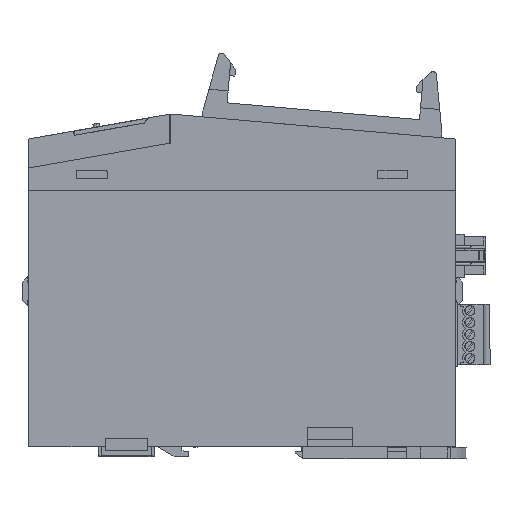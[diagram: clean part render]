
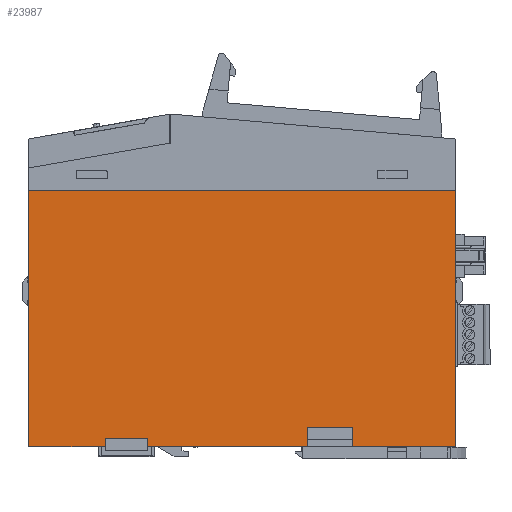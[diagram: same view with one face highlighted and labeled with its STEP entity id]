
A CAD part, left-side view. The second image highlights one B-rep face of the part: STEP entity #23987.
In plain terms, the highlighted planar face has unit normal (-1, 0, 0).
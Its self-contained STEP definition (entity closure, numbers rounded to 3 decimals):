
#2267 = LINE ( 'NONE', #26775, #47983 ) ;
#2592 = EDGE_CURVE ( 'NONE', #12905, #15329, #53128, .T. ) ;
#2993 = LINE ( 'NONE', #53456, #11878 ) ;
#3093 = CARTESIAN_POINT ( 'NONE',  ( -29.1, -62.5, 90. ) ) ;
#3808 = VERTEX_POINT ( 'NONE', #50869 ) ;
#4612 = EDGE_CURVE ( 'NONE', #5940, #27774, #16832, .T. ) ;
#4999 = VERTEX_POINT ( 'NONE', #50679 ) ;
#5330 = CARTESIAN_POINT ( 'NONE',  ( -29.1, -62.5, 5.691 ) ) ;
#5634 = DIRECTION ( 'NONE',  ( 0., 1., 0. ) ) ;
#5940 = VERTEX_POINT ( 'NONE', #15485 ) ;
#6216 = CARTESIAN_POINT ( 'NONE',  ( -29.1, 62.5, 0. ) ) ;
#6251 = EDGE_CURVE ( 'NONE', #10158, #12805, #40227, .T. ) ;
#8044 = ORIENTED_EDGE ( 'NONE', *, *, #37498, .T. ) ;
#8688 = DIRECTION ( 'NONE',  ( 0., -1., 0. ) ) ;
#9464 = DIRECTION ( 'NONE',  ( 0., 1., 0. ) ) ;
#10158 = VERTEX_POINT ( 'NONE', #25436 ) ;
#10609 = CARTESIAN_POINT ( 'NONE',  ( -29.1, 62.5, 0. ) ) ;
#10704 = LINE ( 'NONE', #27497, #45903 ) ;
#11725 = LINE ( 'NONE', #5330, #19973 ) ;
#11878 = VECTOR ( 'NONE', #49313, 1000. ) ;
#11942 = EDGE_CURVE ( 'NONE', #15329, #32878, #46485, .T. ) ;
#12805 = VERTEX_POINT ( 'NONE', #13789 ) ;
#12905 = VERTEX_POINT ( 'NONE', #43838 ) ;
#13789 = CARTESIAN_POINT ( 'NONE',  ( -29.1, -32.35, 5.691 ) ) ;
#14422 = ORIENTED_EDGE ( 'NONE', *, *, #38575, .F. ) ;
#14491 = LINE ( 'NONE', #6216, #53750 ) ;
#14904 = EDGE_CURVE ( 'NONE', #27774, #10158, #14491, .T. ) ;
#15066 = ORIENTED_EDGE ( 'NONE', *, *, #17811, .T. ) ;
#15329 = VERTEX_POINT ( 'NONE', #50043 ) ;
#15485 = CARTESIAN_POINT ( 'NONE',  ( -29.1, -62.5, 75. ) ) ;
#16100 = FACE_OUTER_BOUND ( 'NONE', #29248, .T. ) ;
#16832 = LINE ( 'NONE', #3093, #32811 ) ;
#17811 = EDGE_CURVE ( 'NONE', #5940, #37901, #38180, .T. ) ;
#19290 = CARTESIAN_POINT ( 'NONE',  ( -29.1, -32.35, 5.7 ) ) ;
#19973 = VECTOR ( 'NONE', #9464, 1000. ) ;
#20269 = VECTOR ( 'NONE', #23860, 1000. ) ;
#20770 = DIRECTION ( 'NONE',  ( 0., 1., 0. ) ) ;
#21688 = VECTOR ( 'NONE', #8688, 1000. ) ;
#22707 = CARTESIAN_POINT ( 'NONE',  ( -29.1, 27.75, 0. ) ) ;
#23138 = VECTOR ( 'NONE', #49489, 1000. ) ;
#23860 = DIRECTION ( 'NONE',  ( 0., 0., 1. ) ) ;
#23987 = ADVANCED_FACE ( 'NONE', ( #16100 ), #32900, .F. ) ;
#24014 = DIRECTION ( 'NONE',  ( 0., 0., -1. ) ) ;
#25436 = CARTESIAN_POINT ( 'NONE',  ( -29.1, -32.35, 0. ) ) ;
#25474 = CARTESIAN_POINT ( 'NONE',  ( -29.1, -62.5, 2.491 ) ) ;
#26397 = ORIENTED_EDGE ( 'NONE', *, *, #11942, .T. ) ;
#26775 = CARTESIAN_POINT ( 'NONE',  ( -29.1, 62.5, 97.28 ) ) ;
#27044 = VECTOR ( 'NONE', #5634, 1000. ) ;
#27497 = CARTESIAN_POINT ( 'NONE',  ( -29.1, 62.5, 0. ) ) ;
#27774 = VERTEX_POINT ( 'NONE', #36483 ) ;
#28152 = ORIENTED_EDGE ( 'NONE', *, *, #6251, .F. ) ;
#29097 = ORIENTED_EDGE ( 'NONE', *, *, #2592, .T. ) ;
#29248 = EDGE_LOOP ( 'NONE', ( #45364, #15066, #49846, #14422, #29097, #26397, #8044, #50783, #42495, #39668, #28152, #34778 ) ) ;
#29805 = CARTESIAN_POINT ( 'NONE',  ( -29.1, 27.75, 2.491 ) ) ;
#30115 = VERTEX_POINT ( 'NONE', #22707 ) ;
#31678 = EDGE_CURVE ( 'NONE', #38081, #3808, #49161, .T. ) ;
#32651 = LINE ( 'NONE', #10609, #23138 ) ;
#32811 = VECTOR ( 'NONE', #24014, 1000. ) ;
#32878 = VERTEX_POINT ( 'NONE', #29805 ) ;
#32900 = PLANE ( 'NONE',  #45622 ) ;
#34778 = ORIENTED_EDGE ( 'NONE', *, *, #14904, .F. ) ;
#35277 = VECTOR ( 'NONE', #44755, 1000. ) ;
#35742 = CARTESIAN_POINT ( 'NONE',  ( -29.1, 40.05, 2.5 ) ) ;
#36483 = CARTESIAN_POINT ( 'NONE',  ( -29.1, -62.5, 0. ) ) ;
#37002 = CARTESIAN_POINT ( 'NONE',  ( -29.1, -19.15, 5.7 ) ) ;
#37498 = EDGE_CURVE ( 'NONE', #32878, #30115, #2993, .T. ) ;
#37510 = EDGE_CURVE ( 'NONE', #4999, #37901, #2267, .T. ) ;
#37901 = VERTEX_POINT ( 'NONE', #44107 ) ;
#38081 = VERTEX_POINT ( 'NONE', #42950 ) ;
#38180 = LINE ( 'NONE', #47553, #27044 ) ;
#38575 = EDGE_CURVE ( 'NONE', #12905, #4999, #32651, .T. ) ;
#38740 = DIRECTION ( 'NONE',  ( 0., 1., 0. ) ) ;
#39124 = CARTESIAN_POINT ( 'NONE',  ( -29.1, 62.5, 97.28 ) ) ;
#39668 = ORIENTED_EDGE ( 'NONE', *, *, #42670, .F. ) ;
#40191 = DIRECTION ( 'NONE',  ( 0., 1., 0. ) ) ;
#40227 = LINE ( 'NONE', #19290, #46954 ) ;
#41731 = DIRECTION ( 'NONE',  ( 1., 0., 0. ) ) ;
#42495 = ORIENTED_EDGE ( 'NONE', *, *, #31678, .F. ) ;
#42670 = EDGE_CURVE ( 'NONE', #12805, #38081, #11725, .T. ) ;
#42950 = CARTESIAN_POINT ( 'NONE',  ( -29.1, -19.15, 5.691 ) ) ;
#43838 = CARTESIAN_POINT ( 'NONE',  ( -29.1, 40.05, 0. ) ) ;
#44107 = CARTESIAN_POINT ( 'NONE',  ( -29.1, 62.5, 75. ) ) ;
#44755 = DIRECTION ( 'NONE',  ( 0., 0., -1. ) ) ;
#45364 = ORIENTED_EDGE ( 'NONE', *, *, #4612, .F. ) ;
#45622 = AXIS2_PLACEMENT_3D ( 'NONE', #39124, #41731, #20770 ) ;
#45903 = VECTOR ( 'NONE', #40191, 1000. ) ;
#46485 = LINE ( 'NONE', #25474, #21688 ) ;
#46954 = VECTOR ( 'NONE', #52643, 1000. ) ;
#47538 = EDGE_CURVE ( 'NONE', #3808, #30115, #10704, .T. ) ;
#47553 = CARTESIAN_POINT ( 'NONE',  ( -29.1, 62.5, 75. ) ) ;
#47983 = VECTOR ( 'NONE', #48062, 1000. ) ;
#48062 = DIRECTION ( 'NONE',  ( 0., 0., 1. ) ) ;
#49161 = LINE ( 'NONE', #37002, #35277 ) ;
#49313 = DIRECTION ( 'NONE',  ( 0., 0., -1. ) ) ;
#49489 = DIRECTION ( 'NONE',  ( 0., 1., 0. ) ) ;
#49846 = ORIENTED_EDGE ( 'NONE', *, *, #37510, .F. ) ;
#50043 = CARTESIAN_POINT ( 'NONE',  ( -29.1, 40.05, 2.491 ) ) ;
#50679 = CARTESIAN_POINT ( 'NONE',  ( -29.1, 62.5, 0. ) ) ;
#50783 = ORIENTED_EDGE ( 'NONE', *, *, #47538, .F. ) ;
#50869 = CARTESIAN_POINT ( 'NONE',  ( -29.1, -19.15, 0. ) ) ;
#52643 = DIRECTION ( 'NONE',  ( 0., 0., 1. ) ) ;
#53128 = LINE ( 'NONE', #35742, #20269 ) ;
#53456 = CARTESIAN_POINT ( 'NONE',  ( -29.1, 27.75, 2.5 ) ) ;
#53750 = VECTOR ( 'NONE', #38740, 1000. ) ;
